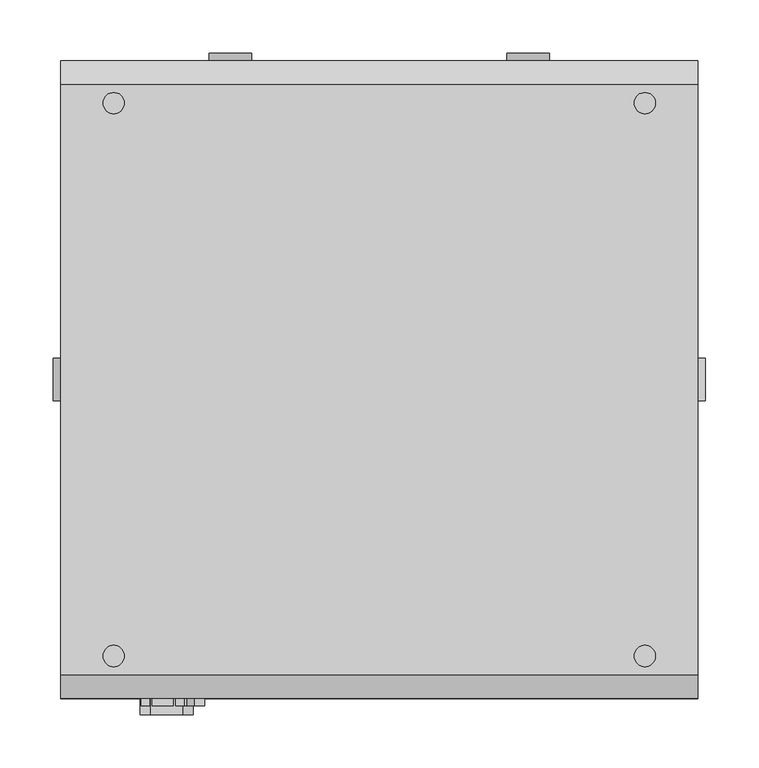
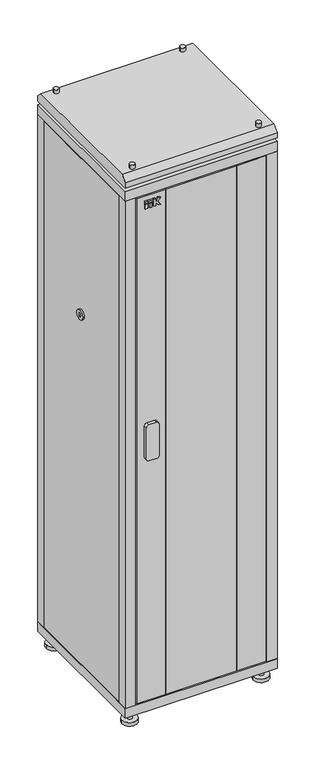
"""IFC4 building model written with IfcOpenShell, lengths in millimetres: proxy geometry, Шкафы ITK серия N_05 : LN05-47U66-G."""

import ifcopenshell
import ifcopenshell.guid

model = None  # the IFC model being written
_history = None  # IfcOwnerHistory: only IFC2X3 demands one
_inside = {}  # id of a spatial element -> (the spatial element, [elements in it])
_under = {}  # id of a project, library or spatial element -> (it, [spatial elements below it])
_declared = {}  # id of a project -> (the project, [libraries it declares])
_typed = {}  # id of a type object -> (the type object, [elements of that type])
_made_of = {}  # id of a material, layer set ... -> (it, [elements and type objects made of it])


def new_model(schema):
    """Start an empty IFC model of exactly this schema.

    Asked for "IFC4X3", IfcOpenShell would pick the latest addendum, in which some entities
    have other attributes; the version numbers below select the first issue.
    IFC2X3 requires an IfcOwnerHistory on every rooted entity: one is made here for all.
    """
    global model, _history
    if schema == "IFC4X3":
        model = ifcopenshell.file(schema_version=(4, 3, 0, 0))
    else:
        model = ifcopenshell.file(schema=schema)
    _inside.clear()
    _under.clear()
    _declared.clear()
    _typed.clear()
    _made_of.clear()
    _history = None
    if model.schema == "IFC2X3":
        org = make("IfcOrganization", Name="unknown")
        user = make(
            "IfcPersonAndOrganization",
            ThePerson=make("IfcPerson", FamilyName="unknown"),
            TheOrganization=org,
        )
        app = make(
            "IfcApplication",
            ApplicationDeveloper=org,
            Version="unknown",
            ApplicationFullName="unknown",
            ApplicationIdentifier="unknown",
        )
        _history = make(
            "IfcOwnerHistory",
            OwningUser=user,
            OwningApplication=app,
            ChangeAction="ADDED",
            CreationDate=0,
        )
    return model


def make(cls, **values):
    """One entity of the class cls with the attributes given. An attribute that is None is left unset."""
    return model.create_entity(
        cls, **{name: value for name, value in values.items() if value is not None}
    )


def rooted(cls, **values):
    """An entity with a GlobalId (a new one), such as an element, a storey or a relation."""
    return make(cls, GlobalId=ifcopenshell.guid.new(), OwnerHistory=_history, **values)


def si_unit(unit_type, name, prefix=None):
    """IfcSIUnit, for example si_unit("LENGTHUNIT", "METRE", prefix="MILLI")."""
    return make("IfcSIUnit", UnitType=unit_type, Prefix=prefix, Name=name)


def assignment(units):
    """IfcUnitAssignment: the units of a project."""
    return None if units is None else make("IfcUnitAssignment", Units=units)


def point(xyz):
    """IfcCartesianPoint."""
    return None if xyz is None else make("IfcCartesianPoint", Coordinates=xyz)


def direction(xyz):
    """IfcDirection."""
    return None if xyz is None else make("IfcDirection", DirectionRatios=xyz)


def frame(location, z_axis=None, x_axis=None):
    """IfcAxis2Placement3D, a coordinate frame: its origin and axes. An axis left out is left unset."""
    return make(
        "IfcAxis2Placement3D",
        Location=point(location),
        Axis=direction(z_axis),
        RefDirection=direction(x_axis),
    )


def frame_2d(location, x_axis=None):
    """IfcAxis2Placement2D, a coordinate frame in the plane: its origin and x axis."""
    return make(
        "IfcAxis2Placement2D", Location=point(location), RefDirection=direction(x_axis)
    )


def origin():
    """The frame at (0, 0, 0) with its axes left unset."""
    return frame((0.0, 0.0, 0.0))


def origin_with_axes():
    """The frame at (0, 0, 0) with the z axis (0, 0, 1) and the x axis (1, 0, 0) written out."""
    return frame((0.0, 0.0, 0.0), z_axis=(0.0, 0.0, 1.0), x_axis=(1.0, 0.0, 0.0))


def place(relative_to, where):
    """IfcLocalPlacement: puts the frame where relative to a parent placement (None: the world)."""
    return make(
        "IfcLocalPlacement", PlacementRelTo=relative_to, RelativePlacement=where
    )


def context(
    kind, dimensions, precision=None, world=None, true_north=None, identifier=None
):
    """IfcGeometricRepresentationContext, for example the 3D "Model" context."""
    return make(
        "IfcGeometricRepresentationContext",
        ContextIdentifier=identifier,
        ContextType=kind,
        CoordinateSpaceDimension=dimensions,
        Precision=precision,
        WorldCoordinateSystem=world,
        TrueNorth=true_north,
    )


def project(units=None, contexts=None):
    """IfcProject with its units and contexts."""
    return rooted(
        "IfcProject",
        Name="project",
        RepresentationContexts=contexts,
        UnitsInContext=assignment(units),
    )


def spatial(cls, under=None, at=None, **own):
    """A site, building, storey or space (cls), placed at a placement, below another one or the project."""
    s = rooted(cls, ObjectPlacement=at, **own)
    if under is not None:
        _under.setdefault(under.id(), (under, []))[1].append(s)
    return s


def polyline(points):
    """IfcPolyline through the points."""
    return make("IfcPolyline", Points=[point(p) for p in points])


def circle_curve(where, radius):
    """IfcCircle in the frame where."""
    return make("IfcCircle", Position=where, Radius=radius)


def trimmed(basis, trim1, trim2, sense, master):
    """IfcTrimmedCurve: the piece of a basis curve between two trims."""
    return make(
        "IfcTrimmedCurve",
        BasisCurve=basis,
        Trim1=trim1,
        Trim2=trim2,
        SenseAgreement=sense,
        MasterRepresentation=master,
    )


def segment(curve, same_sense, transition):
    """IfcCompositeCurveSegment."""
    return make(
        "IfcCompositeCurveSegment",
        Transition=transition,
        SameSense=same_sense,
        ParentCurve=curve,
    )


def composite_curve(segments, self_intersect=None):
    """IfcCompositeCurve: segments joined end to end."""
    return make("IfcCompositeCurve", Segments=segments, SelfIntersect=self_intersect)


def outline(outer, holes=None, kind="AREA"):
    """IfcArbitraryClosedProfileDef: a profile drawn as a closed curve; with holes, ...WithVoids."""
    if holes is None:
        return make("IfcArbitraryClosedProfileDef", ProfileType=kind, OuterCurve=outer)
    return make(
        "IfcArbitraryProfileDefWithVoids",
        ProfileType=kind,
        OuterCurve=outer,
        InnerCurves=holes,
    )


def extrude(swept, where, along, depth):
    """IfcExtrudedAreaSolid: the profile swept, set in the frame where, extruded along a direction by depth."""
    return make(
        "IfcExtrudedAreaSolid",
        SweptArea=swept,
        Position=where,
        ExtrudedDirection=direction(along),
        Depth=depth,
    )


def faces_of(points, faces, orient=None, outer=None):
    """IfcFace entities. A face is a list of loops; a loop is a list of indices into points, from 0.

    orient and outer hold one flag for each loop. By default every Orientation is true, the
    first loop of a face is its IfcFaceOuterBound and the others are IfcFaceBound.
    """
    made = []
    for i, loops in enumerate(faces):
        bounds = []
        for j, loop in enumerate(loops):
            is_outer = j == 0 if outer is None else outer[i][j]
            bounds.append(
                make(
                    "IfcFaceOuterBound" if is_outer else "IfcFaceBound",
                    Bound=make("IfcPolyLoop", Polygon=[points[k] for k in loop]),
                    Orientation=True if orient is None else orient[i][j],
                )
            )
        made.append(make("IfcFace", Bounds=bounds))
    return made


def faceted_brep(points, faces, orient=None, outer=None, voids=None):
    """IfcFacetedBrep: a solid bounded by flat faces; with voids (closed shells), ...WithVoids."""
    shared = [point(p) for p in points]
    hull = make("IfcClosedShell", CfsFaces=faces_of(shared, faces, orient, outer))
    if voids is None:
        return make("IfcFacetedBrep", Outer=hull)
    return make(
        "IfcFacetedBrepWithVoids",
        Outer=hull,
        Voids=[
            make(cls, CfsFaces=faces_of(shared, fs, o, b)) for cls, fs, o, b in voids
        ],
    )


def shape(context_of_items, identifier, shape_type, items):
    """IfcShapeRepresentation: the items that make up one representation, for example the "Body"."""
    return make(
        "IfcShapeRepresentation",
        ContextOfItems=context_of_items,
        RepresentationIdentifier=identifier,
        RepresentationType=shape_type,
        Items=items,
    )


def source(mapping_origin, context_of_items, identifier, shape_type, items):
    """IfcRepresentationMap: a shape defined once, which mapped items show again and again."""
    return make(
        "IfcRepresentationMap",
        MappingOrigin=mapping_origin,
        MappedRepresentation=shape(context_of_items, identifier, shape_type, items),
    )


def transform(
    local_origin,
    x_axis=None,
    y_axis=None,
    z_axis=None,
    scale=None,
    scale2=None,
    scale3=None,
    uniform=True,
):
    """IfcCartesianTransformationOperator3D, or its non-uniform kind. x_axis, y_axis, z_axis: its Axis1, 2, 3."""
    if uniform:
        return make(
            "IfcCartesianTransformationOperator3D",
            Axis1=direction(x_axis),
            Axis2=direction(y_axis),
            LocalOrigin=point(local_origin),
            Scale=scale,
            Axis3=direction(z_axis),
        )
    return make(
        "IfcCartesianTransformationOperator3DnonUniform",
        Axis1=direction(x_axis),
        Axis2=direction(y_axis),
        LocalOrigin=point(local_origin),
        Scale=scale,
        Axis3=direction(z_axis),
        Scale2=scale2,
        Scale3=scale3,
    )


def mapped(mapping_source, mapping_target):
    """IfcMappedItem: shows the shape of a source again, moved by a transform."""
    return make(
        "IfcMappedItem", MappingSource=mapping_source, MappingTarget=mapping_target
    )


def made_of(thing, what):
    """Note that an element or type object is made of a material, layer set ...; save() writes the relation."""
    if what is not None:
        _made_of.setdefault(what.id(), (what, []))[1].append(thing)
    return thing


def element(
    cls,
    number,
    at=None,
    inside=None,
    cuts=None,
    type_object=None,
    material=None,
    context=None,
    identifier="Body",
    shape_type=None,
    held_by="IfcProductDefinitionShape",
    body=None,
    shapes=None,
    **own,
):
    """One element of the class cls, such as IfcWall. Its Tag is "e" and its number.

    at: its placement. inside: the storey or other place that contains it. cuts: it is an
    opening in that element (IfcRelVoidsElement). A single representation is given by context,
    identifier, shape_type and body (its items); several are given by shapes. held_by: the class
    of the entity that holds the representations. save() writes the other relations.
    """
    e = rooted(cls, Tag="e%d" % number, ObjectPlacement=at, **own)
    if body is not None:
        shapes = [shape(context, identifier, shape_type, body)]
    if shapes is not None:
        e.Representation = make(held_by, Representations=shapes)
    if inside is not None:
        _inside.setdefault(inside.id(), (inside, []))[1].append(e)
    if cuts is not None:
        rooted(
            "IfcRelVoidsElement", RelatingBuildingElement=cuts, RelatedOpeningElement=e
        )
    if type_object is not None:
        _typed.setdefault(type_object.id(), (type_object, []))[1].append(e)
    return made_of(e, material)


def aggregate(whole, parts):
    """IfcRelAggregates: a whole, such as a stair, and the parts it consists of."""
    return rooted("IfcRelAggregates", RelatingObject=whole, RelatedObjects=parts)


def save(model, path):
    """Write the relations noted so far, then the file.

    IfcRelAggregates (storeys below a building ...), IfcRelContainedInSpatialStructure (elements
    in a storey), IfcRelDefinesByType, IfcRelAssociatesMaterial and IfcRelDeclares: one each for
    every whole, place, type object, material and project.
    """
    for whole, parts in _under.values():
        aggregate(whole, parts)
    for where, things in _inside.values():
        rooted(
            "IfcRelContainedInSpatialStructure",
            RelatedElements=things,
            RelatingStructure=where,
        )
    for kind, things in _typed.values():
        rooted("IfcRelDefinesByType", RelatedObjects=things, RelatingType=kind)
    for what, things in _made_of.values():
        rooted("IfcRelAssociatesMaterial", RelatedObjects=things, RelatingMaterial=what)
    for by, libraries in _declared.values():
        rooted("IfcRelDeclares", RelatingContext=by, RelatedDefinitions=libraries)
    model.write(path)


def plane_surface(at):
    """IfcPlane: the flat surface through the origin of the frame at, square to its z axis."""
    return make("IfcPlane", Position=at)


def cylinder_surface(at, radius):
    """IfcCylindricalSurface: all points at the distance radius from the z axis of the frame at."""
    return make("IfcCylindricalSurface", Position=at, Radius=radius)


def advanced_brep(points, edges, surfaces, faces):
    """IfcAdvancedBrep: a solid bounded by faces that lie on surfaces and meet in shared edges.

    An edge is (start, end): straight between two places in points (the first is 0);
    or (start, end, curve); or (start, end, curve, False) where it runs against its curve.
    A face is (place in surfaces, loops), or (place, loops, False) where it looks against
    its surface's normal. A loop lists edges by number (the first is 1), with a minus sign
    where the edge is run from its end to its start. The first loop is the outer one.
    """
    corners = [point(p) for p in points]
    vertices = [make("IfcVertexPoint", VertexGeometry=c) for c in corners]
    made = []
    for start, end, *more in edges:
        made.append(
            make(
                "IfcEdgeCurve",
                EdgeStart=vertices[start],
                EdgeEnd=vertices[end],
                EdgeGeometry=more[0] if more else make("IfcPolyline", Points=[corners[start], corners[end]]),
                SameSense=more[1] if len(more) > 1 else True,
            )
        )
    hull = []
    for where, loops, *sense in faces:
        bounds = []
        for j, loop in enumerate(loops):
            ring = [make("IfcOrientedEdge", EdgeElement=made[abs(k) - 1], Orientation=k > 0) for k in loop]
            bounds.append(
                make(
                    "IfcFaceOuterBound" if j == 0 else "IfcFaceBound",
                    Bound=make("IfcEdgeLoop", EdgeList=ring),
                    Orientation=True,
                )
            )
        hull.append(make("IfcAdvancedFace", Bounds=bounds, FaceSurface=surfaces[where], SameSense=sense[0] if sense else True))
    return make("IfcAdvancedBrep", Outer=make("IfcClosedShell", CfsFaces=hull))


def electrical_fixtures_600f5bc7(model_context):
    return source(origin(), model_context, "Body", "SolidModel", [
        extrude(outline(polyline([(-215.9746193, -307.0), (-224.197592, -307.0), (-224.197592, -300.0), (-215.9746193, -300.0), (-215.9746193, -307.0)])), frame((0.0, 0.0, 2157.0), z_axis=(0.0, 0.0, 1.0), x_axis=(1.0, 0.0, 0.0)), (0.0, 0.0, 1.0), 18.8087618),
        extrude(outline(polyline([(-199.9605777, -307.0), (-207.7053315, -307.0), (-207.7053315, -300.0), (-199.9605777, -300.0), (-199.9605777, -307.0)])), frame((0.0, 0.0, 2157.0), z_axis=(0.0, 0.0, 1.0), x_axis=(1.0, 0.0, 0.0)), (0.0, 0.0, 1.0), 18.8087618),
        extrude(outline(polyline([(-215.9746193, -307.0), (-224.197592, -307.0), (-224.197592, -300.0), (-215.9746193, -300.0), (-215.9746193, -307.0)])), frame((0.0, 0.0, 2178.4305892), z_axis=(0.0, 0.0, 1.0), x_axis=(1.0, 0.0, 0.0)), (0.0, 0.0, 1.0), 7.9794747),
        extrude(outline(polyline([(2157.0, -191.5184175), (2157.0, -183.7669278), (2168.0271455, -183.7669278), (2168.0271455, -180.8031229), (2157.0, -173.6420108), (2157.0, -164.197592), (2171.7278745, -174.8980192), (2186.410064, -164.197592), (2186.410064, -173.6420108), (2175.3829184, -180.8031229), (2175.3829184, -183.7669278), (2186.410064, -183.7669278), (2186.410064, -191.5184175), (2157.0, -191.5184175)])), frame((0.0, -307.0, 0.0), z_axis=(0.0, 1.0, 0.0), x_axis=(0.0, 0.0, 1.0)), (0.0, 0.0, 1.0), 7.0),
        extrude(outline(polyline([(-194.0851324, -307.0), (-213.5807768, -307.0), (-213.5807768, -300.0), (-194.0851324, -300.0), (-194.0851324, -307.0)])), frame((0.0, 0.0, 2178.4305892), z_axis=(0.0, 0.0, 1.0), x_axis=(1.0, 0.0, 0.0)), (0.0, 0.0, 1.0), 7.9794747),
        extrude(outline(composite_curve([segment(polyline([(1256.0, -185.0), (1256.0, -215.0)]), True, "CONTINUOUS"), segment(trimmed(circle_curve(frame_2d((1246.0, -215.0)), 10.0), [point((1256.0, -215.0))], [point((1246.0, -225.0))], False, "CARTESIAN"), True, "CONTINUOUS"), segment(polyline([(1246.0, -225.0), (1116.0, -225.0)]), True, "CONTINUOUS"), segment(trimmed(circle_curve(frame_2d((1116.0, -215.0)), 10.0), [point((1116.0, -225.0))], [point((1106.0, -215.0))], False, "CARTESIAN"), True, "CONTINUOUS"), segment(polyline([(1106.0, -215.0), (1106.0, -185.0)]), True, "CONTINUOUS"), segment(trimmed(circle_curve(frame_2d((1116.0, -185.0)), 10.0), [point((1106.0, -185.0))], [point((1116.0, -175.0))], False, "CARTESIAN"), True, "CONTINUOUS"), segment(polyline([(1116.0, -175.0), (1246.0, -175.0)]), True, "CONTINUOUS"), segment(trimmed(circle_curve(frame_2d((1246.0, -185.0)), 10.0), [point((1246.0, -175.0))], [point((1256.0, -185.0))], False, "CARTESIAN"), True, "CONTINUOUS")], self_intersect=False)), frame((0.0, -315.0, 0.0), z_axis=(0.0, 1.0, 0.0), x_axis=(0.0, 0.0, 1.0)), (0.0, 0.0, 1.0), 15.0),
        extrude(outline(polyline([(140.0, -280.0), (140.0, -300.0), (-140.0, -300.0), (-140.0, -280.0), (140.0, -280.0)])), frame((0.0, 0.0, 95.0), z_axis=(0.0, 0.0, 1.0), x_axis=(1.0, 0.0, 0.0)), (0.0, 0.0, 1.0), 2112.0),
        extrude(outline(polyline([(255.0, -280.0), (255.0, -300.0), (140.0, -300.0), (140.0, -280.0), (235.0, -280.0), (235.0, -265.0), (245.0, -265.0), (245.0, -280.0), (255.0, -280.0)])), frame((0.0, 0.0, 95.0), z_axis=(0.0, 0.0, 1.0), x_axis=(1.0, 0.0, 0.0)), (0.0, 0.0, 1.0), 2112.0),
        extrude(outline(polyline([(-140.0, -300.0), (-255.0, -300.0), (-255.0, -280.0), (-245.0, -280.0), (-245.0, -265.0), (-235.0, -265.0), (-235.0, -280.0), (-140.0, -280.0), (-140.0, -300.0)])), frame((0.0, 0.0, 95.0), z_axis=(0.0, 0.0, 1.0), x_axis=(1.0, 0.0, 0.0)), (0.0, 0.0, 1.0), 2112.0),
        extrude(outline(composite_curve([segment(trimmed(circle_curve(frame_2d((-260.0, 260.0)), 10.0), [point((-250.0, 260.0))], [point((-270.0, 260.0))], False, "CARTESIAN"), True, "CONTINUOUS"), segment(trimmed(circle_curve(frame_2d((-260.0, 260.0)), 10.0), [point((-270.0, 260.0))], [point((-250.0, 260.0))], False, "CARTESIAN"), True, "CONTINUOUS")], self_intersect=False)), frame((0.0, 0.0, 15.0), z_axis=(0.0, 0.0, 1.0), x_axis=(1.0, 0.0, 0.0)), (0.0, 0.0, 1.0), 35.0),
        extrude(outline(composite_curve([segment(trimmed(circle_curve(frame_2d((260.0, 260.0)), 10.0), [point((270.0, 260.0))], [point((250.0, 260.0))], False, "CARTESIAN"), True, "CONTINUOUS"), segment(trimmed(circle_curve(frame_2d((260.0, 260.0)), 10.0), [point((250.0, 260.0))], [point((270.0, 260.0))], False, "CARTESIAN"), True, "CONTINUOUS")], self_intersect=False)), frame((0.0, 0.0, 15.0), z_axis=(0.0, 0.0, 1.0), x_axis=(1.0, 0.0, 0.0)), (0.0, 0.0, 1.0), 35.0),
        extrude(outline(composite_curve([segment(trimmed(circle_curve(frame_2d((-260.0, -260.0)), 10.0), [point((-250.0, -260.0))], [point((-270.0, -260.0))], False, "CARTESIAN"), True, "CONTINUOUS"), segment(trimmed(circle_curve(frame_2d((-260.0, -260.0)), 10.0), [point((-270.0, -260.0))], [point((-250.0, -260.0))], False, "CARTESIAN"), True, "CONTINUOUS")], self_intersect=False)), frame((0.0, 0.0, 15.0), z_axis=(0.0, 0.0, 1.0), x_axis=(1.0, 0.0, 0.0)), (0.0, 0.0, 1.0), 35.0),
        extrude(outline(composite_curve([segment(trimmed(circle_curve(frame_2d((260.0, -260.0)), 10.0), [point((270.0, -260.0))], [point((250.0, -260.0))], False, "CARTESIAN"), True, "CONTINUOUS"), segment(trimmed(circle_curve(frame_2d((260.0, -260.0)), 10.0), [point((250.0, -260.0))], [point((270.0, -260.0))], False, "CARTESIAN"), True, "CONTINUOUS")], self_intersect=False)), frame((0.0, 0.0, 15.0), z_axis=(0.0, 0.0, 1.0), x_axis=(1.0, 0.0, 0.0)), (0.0, 0.0, 1.0), 35.0),
        extrude(outline(composite_curve([segment(trimmed(circle_curve(frame_2d((-260.0, 260.0)), 30.0), [point((-230.0, 260.0))], [point((-290.0, 260.0))], False, "CARTESIAN"), True, "CONTINUOUS"), segment(trimmed(circle_curve(frame_2d((-260.0, 260.0)), 30.0), [point((-290.0, 260.0))], [point((-230.0, 260.0))], False, "CARTESIAN"), True, "CONTINUOUS")], self_intersect=False)), origin_with_axes(), (0.0, 0.0, 1.0), 15.0),
        extrude(outline(composite_curve([segment(trimmed(circle_curve(frame_2d((260.0, 260.0)), 30.0), [point((290.0, 260.0))], [point((230.0, 260.0))], False, "CARTESIAN"), True, "CONTINUOUS"), segment(trimmed(circle_curve(frame_2d((260.0, 260.0)), 30.0), [point((230.0, 260.0))], [point((290.0, 260.0))], False, "CARTESIAN"), True, "CONTINUOUS")], self_intersect=False)), origin_with_axes(), (0.0, 0.0, 1.0), 15.0),
        extrude(outline(composite_curve([segment(trimmed(circle_curve(frame_2d((-260.0, -260.0)), 30.0), [point((-230.0, -260.0))], [point((-290.0, -260.0))], False, "CARTESIAN"), True, "CONTINUOUS"), segment(trimmed(circle_curve(frame_2d((-260.0, -260.0)), 30.0), [point((-290.0, -260.0))], [point((-230.0, -260.0))], False, "CARTESIAN"), True, "CONTINUOUS")], self_intersect=False)), origin_with_axes(), (0.0, 0.0, 1.0), 15.0),
        extrude(outline(composite_curve([segment(trimmed(circle_curve(frame_2d((260.0, -260.0)), 30.0), [point((290.0, -260.0))], [point((230.0, -260.0))], False, "CARTESIAN"), True, "CONTINUOUS"), segment(trimmed(circle_curve(frame_2d((260.0, -260.0)), 30.0), [point((230.0, -260.0))], [point((290.0, -260.0))], False, "CARTESIAN"), True, "CONTINUOUS")], self_intersect=False)), origin_with_axes(), (0.0, 0.0, 1.0), 15.0),
        advanced_brep(
        [(260.0, 260.0, 2327.0), (240.0, 260.0, 2327.0), (260.0, -260.0, 2327.0), (240.0, -260.0, 2327.0), (-240.0, 260.0, 2327.0), (-260.0, 260.0, 2327.0), (-240.0, -260.0, 2327.0), (-260.0, -260.0, 2327.0), (260.0, 260.0, 2252.0), (240.0, 260.0, 2252.0), (260.0, -260.0, 2252.0), (240.0, -260.0, 2252.0), (-240.0, 260.0, 2252.0), (-260.0, 260.0, 2252.0), (-240.0, -260.0, 2252.0), (-260.0, -260.0, 2252.0), (260.0, 260.0, 2312.0), (240.0, 260.0, 2312.0), (240.0, 260.0, 2267.0), (260.0, 260.0, 2267.0), (260.0, -260.0, 2312.0), (240.0, -260.0, 2312.0), (240.0, -260.0, 2267.0), (260.0, -260.0, 2267.0), (-240.0, 260.0, 2312.0), (-260.0, 260.0, 2312.0), (-260.0, 260.0, 2267.0), (-240.0, 260.0, 2267.0), (-240.0, -260.0, 2312.0), (-260.0, -260.0, 2312.0), (-260.0, -260.0, 2267.0), (-240.0, -260.0, 2267.0), (300.0, 277.5, 2312.0), (300.0, -277.5, 2312.0), (300.0, -300.0, 2289.5), (300.0, -300.0, 2267.0), (300.0, 300.0, 2267.0), (300.0, 300.0, 2289.5), (-300.0, 277.5, 2312.0), (-300.0, 300.0, 2289.5), (-300.0, 300.0, 2267.0), (-300.0, -300.0, 2267.0), (-300.0, -300.0, 2289.5), (-300.0, -277.5, 2312.0)],
        [
            (0, 1, circle_curve(frame((250.0, 260.0, 2327.0), z_axis=(0.0, 0.0, 1.0), x_axis=(-1.0, 0.0, 0.0)), 10.0)),
            (1, 0, circle_curve(frame((250.0, 260.0, 2327.0), z_axis=(0.0, 0.0, 1.0), x_axis=(-1.0, 0.0, 0.0)), 10.0)),
            (2, 3, circle_curve(frame((250.0, -260.0, 2327.0), z_axis=(0.0, 0.0, 1.0), x_axis=(-1.0, 0.0, 0.0)), 10.0)),
            (3, 2, circle_curve(frame((250.0, -260.0, 2327.0), z_axis=(0.0, 0.0, 1.0), x_axis=(-1.0, 0.0, 0.0)), 10.0)),
            (4, 5, circle_curve(frame((-250.0, 260.0, 2327.0), z_axis=(0.0, 0.0, 1.0), x_axis=(-1.0, 0.0, 0.0)), 10.0)),
            (5, 4, circle_curve(frame((-250.0, 260.0, 2327.0), z_axis=(0.0, 0.0, 1.0), x_axis=(-1.0, 0.0, 0.0)), 10.0)),
            (6, 7, circle_curve(frame((-250.0, -260.0, 2327.0), z_axis=(0.0, 0.0, 1.0), x_axis=(-1.0, 0.0, 0.0)), 10.0)),
            (7, 6, circle_curve(frame((-250.0, -260.0, 2327.0), z_axis=(0.0, 0.0, 1.0), x_axis=(-1.0, 0.0, 0.0)), 10.0)),
            (8, 9, circle_curve(frame((250.0, 260.0, 2252.0), z_axis=(0.0, 0.0, -1.0), x_axis=(-1.0, 0.0, 0.0)), 10.0)),
            (9, 8, circle_curve(frame((250.0, 260.0, 2252.0), z_axis=(0.0, 0.0, -1.0), x_axis=(-1.0, 0.0, 0.0)), 10.0)),
            (10, 11, circle_curve(frame((250.0, -260.0, 2252.0), z_axis=(0.0, 0.0, -1.0), x_axis=(-1.0, 0.0, 0.0)), 10.0)),
            (11, 10, circle_curve(frame((250.0, -260.0, 2252.0), z_axis=(0.0, 0.0, -1.0), x_axis=(-1.0, 0.0, 0.0)), 10.0)),
            (12, 13, circle_curve(frame((-250.0, 260.0, 2252.0), z_axis=(0.0, 0.0, -1.0), x_axis=(-1.0, 0.0, 0.0)), 10.0)),
            (13, 12, circle_curve(frame((-250.0, 260.0, 2252.0), z_axis=(0.0, 0.0, -1.0), x_axis=(-1.0, 0.0, 0.0)), 10.0)),
            (14, 15, circle_curve(frame((-250.0, -260.0, 2252.0), z_axis=(0.0, 0.0, -1.0), x_axis=(-1.0, 0.0, 0.0)), 10.0)),
            (15, 14, circle_curve(frame((-250.0, -260.0, 2252.0), z_axis=(0.0, 0.0, -1.0), x_axis=(-1.0, 0.0, 0.0)), 10.0)),
            (0, 16),
            (16, 17, circle_curve(frame((250.0, 260.0, 2312.0), z_axis=(0.0, 0.0, 1.0), x_axis=(-1.0, 0.0, 0.0)), 10.0)),
            (17, 1),
            (9, 18),
            (18, 19, circle_curve(frame((250.0, 260.0, 2267.0), z_axis=(0.0, 0.0, -1.0), x_axis=(-1.0, 0.0, 0.0)), 10.0)),
            (19, 8),
            (17, 16, circle_curve(frame((250.0, 260.0, 2312.0), z_axis=(0.0, 0.0, 1.0), x_axis=(-1.0, 0.0, 0.0)), 10.0)),
            (19, 18, circle_curve(frame((250.0, 260.0, 2267.0), z_axis=(0.0, 0.0, -1.0), x_axis=(-1.0, 0.0, 0.0)), 10.0)),
            (2, 20),
            (20, 21, circle_curve(frame((250.0, -260.0, 2312.0), z_axis=(0.0, 0.0, 1.0), x_axis=(-1.0, 0.0, 0.0)), 10.0)),
            (21, 3),
            (11, 22),
            (22, 23, circle_curve(frame((250.0, -260.0, 2267.0), z_axis=(0.0, 0.0, -1.0), x_axis=(-1.0, 0.0, 0.0)), 10.0)),
            (23, 10),
            (21, 20, circle_curve(frame((250.0, -260.0, 2312.0), z_axis=(0.0, 0.0, 1.0), x_axis=(-1.0, 0.0, 0.0)), 10.0)),
            (23, 22, circle_curve(frame((250.0, -260.0, 2267.0), z_axis=(0.0, 0.0, -1.0), x_axis=(-1.0, 0.0, 0.0)), 10.0)),
            (4, 24),
            (24, 25, circle_curve(frame((-250.0, 260.0, 2312.0), z_axis=(0.0, 0.0, 1.0), x_axis=(-1.0, 0.0, 0.0)), 10.0)),
            (25, 5),
            (13, 26),
            (26, 27, circle_curve(frame((-250.0, 260.0, 2267.0), z_axis=(0.0, 0.0, -1.0), x_axis=(-1.0, 0.0, 0.0)), 10.0)),
            (27, 12),
            (25, 24, circle_curve(frame((-250.0, 260.0, 2312.0), z_axis=(0.0, 0.0, 1.0), x_axis=(-1.0, 0.0, 0.0)), 10.0)),
            (27, 26, circle_curve(frame((-250.0, 260.0, 2267.0), z_axis=(0.0, 0.0, -1.0), x_axis=(-1.0, 0.0, 0.0)), 10.0)),
            (6, 28),
            (28, 29, circle_curve(frame((-250.0, -260.0, 2312.0), z_axis=(0.0, 0.0, 1.0), x_axis=(-1.0, 0.0, 0.0)), 10.0)),
            (29, 7),
            (15, 30),
            (30, 31, circle_curve(frame((-250.0, -260.0, 2267.0), z_axis=(0.0, 0.0, -1.0), x_axis=(-1.0, 0.0, 0.0)), 10.0)),
            (31, 14),
            (29, 28, circle_curve(frame((-250.0, -260.0, 2312.0), z_axis=(0.0, 0.0, 1.0), x_axis=(-1.0, 0.0, 0.0)), 10.0)),
            (31, 30, circle_curve(frame((-250.0, -260.0, 2267.0), z_axis=(0.0, 0.0, -1.0), x_axis=(-1.0, 0.0, 0.0)), 10.0)),
            (32, 33),
            (33, 34),
            (34, 35),
            (35, 36),
            (36, 37),
            (37, 32),
            (38, 39),
            (39, 40),
            (40, 41),
            (41, 42),
            (42, 43),
            (43, 38),
            (32, 38),
            (43, 33),
            (42, 34),
            (41, 35),
            (40, 36),
            (39, 37),
        ],
        [
            plane_surface(frame((240.0, 260.0, 2327.0), z_axis=(0.0, 0.0, 1.0), x_axis=(0.0, -1.0, 0.0))),
            plane_surface(frame((240.0, 260.0, 2252.0), z_axis=(0.0, 0.0, -1.0), x_axis=(0.0, 1.0, 0.0))),
            cylinder_surface(frame((250.0, 260.0, 2252.0), z_axis=(0.0, 0.0, 1.0), x_axis=(-1.0, 0.0, 0.0)), 10.0),
            cylinder_surface(frame((250.0, -260.0, 1710.0), z_axis=(0.0, 0.0, 1.0), x_axis=(-1.0, 0.0, 0.0)), 10.0),
            cylinder_surface(frame((-250.0, 260.0, 1710.0), z_axis=(0.0, 0.0, 1.0), x_axis=(-1.0, 0.0, 0.0)), 10.0),
            cylinder_surface(frame((-250.0, -260.0, 1710.0), z_axis=(0.0, 0.0, 1.0), x_axis=(-1.0, 0.0, 0.0)), 10.0),
            plane_surface(frame((300.0, -277.5, 2312.0), z_axis=(1.0, 0.0, 0.0), x_axis=(0.0, -1.0, 0.0))),
            plane_surface(frame((-300.0, -277.5, 2312.0), z_axis=(-1.0, 0.0, 0.0), x_axis=(0.0, 1.0, 0.0))),
            plane_surface(frame((300.0, 277.5, 2312.0), z_axis=(0.0, 0.0, 1.0), x_axis=(-1.0, 0.0, 0.0))),
            plane_surface(frame((300.0, -277.5, 2312.0), z_axis=(0.0, -0.7071067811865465, 0.7071067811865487), x_axis=(-1.0, 0.0, 0.0))),
            plane_surface(frame((300.0, -300.0, 2289.5), z_axis=(0.0, -1.0, 0.0), x_axis=(-1.0, 0.0, 0.0))),
            plane_surface(frame((300.0, -300.0, 2267.0), z_axis=(0.0, 0.0, -1.0), x_axis=(-1.0, 0.0, 0.0))),
            plane_surface(frame((300.0, 300.0, 2267.0), z_axis=(0.0, 1.0, 0.0), x_axis=(-1.0, 0.0, 0.0))),
            plane_surface(frame((300.0, 300.0, 2289.5), z_axis=(0.0, 0.7071067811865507, 0.7071067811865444), x_axis=(-1.0, 0.0, 0.0))),
        ],
        [
            (0, [[1, 2]]),
            (0, [[3, 4]]),
            (0, [[5, 6]]),
            (0, [[7, 8]]),
            (1, [[9, 10]]),
            (1, [[11, 12]]),
            (1, [[13, 14]]),
            (1, [[15, 16]]),
            (2, [[-1, 17, 18, 19]]),
            (2, [[-10, 20, 21, 22]]),
            (2, [[-2, -19, 23, -17]]),
            (2, [[-9, -22, 24, -20]]),
            (3, [[-3, 25, 26, 27]]),
            (3, [[-12, 28, 29, 30]]),
            (3, [[-4, -27, 31, -25]]),
            (3, [[-11, -30, 32, -28]]),
            (4, [[-5, 33, 34, 35]]),
            (4, [[-14, 36, 37, 38]]),
            (4, [[-6, -35, 39, -33]]),
            (4, [[-13, -38, 40, -36]]),
            (5, [[-7, 41, 42, 43]]),
            (5, [[-16, 44, 45, 46]]),
            (5, [[-8, -43, 47, -41]]),
            (5, [[-15, -46, 48, -44]]),
            (6, [[49, 50, 51, 52, 53, 54]]),
            (7, [[55, 56, 57, 58, 59, 60]]),
            (8, [[-49, 61, -60, 62], [-18, -23], [-26, -31], [-34, -39], [-42, -47]]),
            (9, [[-50, -62, -59, 63]]),
            (10, [[-51, -63, -58, 64]]),
            (11, [[-52, -64, -57, 65], [-21, -24], [-29, -32], [-37, -40], [-45, -48]]),
            (12, [[-53, -65, -56, 66]]),
            (13, [[-54, -66, -55, -61]]),
        ],
    ),
        extrude(outline(polyline([(260.0, 260.0), (260.0, 245.0), (290.0, 245.0), (290.0, -245.0), (260.0, -245.0), (260.0, -260.0), (245.0, -260.0), (245.0, -280.0), (-245.0, -280.0), (-245.0, -260.0), (-260.0, -260.0), (-260.0, -245.0), (-290.0, -245.0), (-290.0, 245.0), (-260.0, 245.0), (-260.0, 260.0), (-245.0, 260.0), (-245.0, 290.0), (245.0, 290.0), (245.0, 260.0), (260.0, 260.0)])), frame((0.0, 0.0, 90.0), z_axis=(0.0, 0.0, 1.0), x_axis=(1.0, 0.0, 0.0)), (0.0, 0.0, 1.0), 5.0),
        extrude(outline(polyline([(260.0, 260.0), (260.0, 245.0), (290.0, 245.0), (290.0, -245.0), (260.0, -245.0), (260.0, -260.0), (245.0, -260.0), (245.0, -280.0), (-245.0, -280.0), (-245.0, -260.0), (-260.0, -260.0), (-260.0, -245.0), (-290.0, -245.0), (-290.0, 245.0), (-260.0, 245.0), (-260.0, 260.0), (-245.0, 260.0), (-245.0, 290.0), (245.0, 290.0), (245.0, 260.0), (260.0, 260.0)])), frame((0.0, 0.0, 2207.0), z_axis=(0.0, 0.0, 1.0), x_axis=(1.0, 0.0, 0.0)), (0.0, 0.0, 1.0), 5.0),
        extrude(outline(polyline([(300.0, -300.0), (-300.0, -300.0), (-300.0, 300.0), (300.0, 300.0), (300.0, -300.0)])), frame((0.0, 0.0, 2212.0), z_axis=(0.0, 0.0, 1.0), x_axis=(1.0, 0.0, 0.0)), (0.0, 0.0, 1.0), 40.0),
        extrude(outline(polyline([(300.0, -300.0), (-300.0, -300.0), (-300.0, 300.0), (300.0, 300.0), (300.0, -300.0)])), frame((0.0, 0.0, 50.0), z_axis=(0.0, 0.0, 1.0), x_axis=(1.0, 0.0, 0.0)), (0.0, 0.0, 1.0), 40.0),
        extrude(outline(composite_curve([segment(trimmed(circle_curve(frame_2d((1151.0, 140.0)), 20.0), [point((1151.0, 160.0))], [point((1151.0, 120.0))], False, "CARTESIAN"), True, "CONTINUOUS"), segment(trimmed(circle_curve(frame_2d((1151.0, 140.0)), 20.0), [point((1151.0, 120.0))], [point((1151.0, 160.0))], False, "CARTESIAN"), True, "CONTINUOUS")], self_intersect=False), holes=[polyline([(1142.7814397, 137.0), (1159.2185603, 137.0), (1159.2185603, 143.0), (1142.7814397, 143.0), (1142.7814397, 137.0)])]), frame((0.0, 300.0, 0.0), z_axis=(0.0, 1.0, 0.0), x_axis=(0.0, 0.0, 1.0)), (0.0, 0.0, 1.0), 7.0),
        extrude(outline(composite_curve([segment(trimmed(circle_curve(frame_2d((1151.0, -140.0)), 20.0), [point((1151.0, -120.0))], [point((1151.0, -160.0))], False, "CARTESIAN"), True, "CONTINUOUS"), segment(trimmed(circle_curve(frame_2d((1151.0, -140.0)), 20.0), [point((1151.0, -160.0))], [point((1151.0, -120.0))], False, "CARTESIAN"), True, "CONTINUOUS")], self_intersect=False), holes=[polyline([(1142.7814397, -143.0), (1159.2185603, -143.0), (1159.2185603, -137.0), (1142.7814397, -137.0), (1142.7814397, -143.0)])]), frame((0.0, 300.0, 0.0), z_axis=(0.0, 1.0, 0.0), x_axis=(0.0, 0.0, 1.0)), (0.0, 0.0, 1.0), 7.0),
        faceted_brep([(255.0, 300.0, 2207.0), (-255.0, 300.0, 2207.0), (-255.0, 270.0, 2207.0), (-245.0, 270.0, 2207.0), (-245.0, 290.0, 2207.0), (245.0, 290.0, 2207.0), (245.0, 270.0, 2207.0), (255.0, 270.0, 2207.0), (255.0, 300.0, 95.0), (255.0, 270.0, 95.0), (245.0, 270.0, 95.0), (245.0, 290.0, 95.0), (-245.0, 290.0, 95.0), (-245.0, 270.0, 95.0), (-255.0, 270.0, 95.0), (-255.0, 300.0, 95.0), (255.0, 300.0, 2034.5265979), (-255.0, 300.0, 2034.5265979), (175.0, 300.0, 2082.0), (175.0, 300.0, 2162.0), (-175.0, 300.0, 2162.0), (-175.0, 300.0, 2082.0), (-255.0, 300.0, 267.4734021), (255.0, 300.0, 267.4734021), (175.0, 300.0, 220.0), (-175.0, 300.0, 220.0), (-175.0, 300.0, 140.0), (175.0, 300.0, 140.0), (255.0, 300.0, 2029.4734021), (255.0, 300.0, 272.5265979), (-255.0, 300.0, 272.5265979), (-255.0, 300.0, 2029.4734021), (-170.0, 300.0, 215.0), (170.0, 300.0, 215.0), (170.0, 300.0, 145.0), (-170.0, 300.0, 145.0), (-170.0, 300.0, 2087.0), (-170.0, 300.0, 2157.0), (170.0, 300.0, 2157.0), (170.0, 300.0, 2087.0), (-255.0, 293.0, 2034.5265979), (-255.0, 293.0, 2029.4734021), (-255.0, 293.0, 272.5265979), (-255.0, 293.0, 267.4734021), (255.0, 293.0, 267.4734021), (255.0, 293.0, 272.5265979), (255.0, 293.0, 2029.4734021), (255.0, 293.0, 2034.5265979), (175.0, 293.0, 220.0), (175.0, 293.0, 140.0), (-175.0, 293.0, 140.0), (-175.0, 293.0, 220.0), (-170.0, 293.0, 215.0), (-170.0, 293.0, 145.0), (170.0, 293.0, 145.0), (170.0, 293.0, 215.0), (175.0, 293.0, 2082.0), (-175.0, 293.0, 2082.0), (-175.0, 293.0, 2162.0), (175.0, 293.0, 2162.0), (-170.0, 293.0, 2087.0), (170.0, 293.0, 2087.0), (170.0, 293.0, 2157.0), (-170.0, 293.0, 2157.0)], [[[0, 1, 2, 3, 4, 5, 6, 7]], [[8, 9, 10, 11, 12, 13, 14, 15]], [[1, 0, 16, 17], [18, 19, 20, 21]], [[8, 15, 22, 23], [24, 25, 26, 27]], [[28, 29, 30, 31]], [[32, 33, 34, 35]], [[36, 37, 38, 39]], [[2, 1, 17, 40, 41, 31, 30, 42, 43, 22, 15, 14]], [[3, 2, 14, 13]], [[4, 3, 13, 12]], [[5, 4, 12, 11]], [[6, 5, 11, 10]], [[7, 6, 10, 9]], [[0, 7, 9, 8, 23, 44, 45, 29, 28, 46, 47, 16]], [[44, 43, 42, 45]], [[48, 49, 50, 51], [52, 53, 54, 55]], [[46, 41, 40, 47]], [[56, 57, 58, 59], [60, 61, 62, 63]], [[45, 42, 30, 29]], [[43, 44, 23, 22]], [[48, 51, 25, 24]], [[51, 50, 26, 25]], [[50, 49, 27, 26]], [[49, 48, 24, 27]], [[52, 55, 33, 32]], [[55, 54, 34, 33]], [[54, 53, 35, 34]], [[53, 52, 32, 35]], [[47, 40, 17, 16]], [[41, 46, 28, 31]], [[56, 59, 19, 18]], [[59, 58, 20, 19]], [[58, 57, 21, 20]], [[57, 56, 18, 21]], [[60, 63, 37, 36]], [[63, 62, 38, 37]], [[62, 61, 39, 38]], [[61, 60, 36, 39]]]),
        extrude(outline(composite_curve([segment(trimmed(circle_curve(frame_2d((0.0, 1558.0)), 20.0), [point((-20.0, 1558.0))], [point((20.0, 1558.0))], False, "CARTESIAN"), True, "CONTINUOUS"), segment(trimmed(circle_curve(frame_2d((0.0, 1558.0)), 20.0), [point((20.0, 1558.0))], [point((-20.0, 1558.0))], False, "CARTESIAN"), True, "CONTINUOUS")], self_intersect=False), holes=[polyline([(3.0, 1549.7814397), (3.0, 1566.2185603), (-3.0, 1566.2185603), (-3.0, 1549.7814397), (3.0, 1549.7814397)])]), frame((300.0, 0.0, 0.0), z_axis=(1.0, 0.0, 0.0), x_axis=(0.0, 1.0, 0.0)), (0.0, 0.0, 1.0), 7.0),
        extrude(outline(composite_curve([segment(trimmed(circle_curve(frame_2d((0.0, 1558.0)), 20.0), [point((20.0, 1558.0))], [point((-20.0, 1558.0))], False, "CARTESIAN"), True, "CONTINUOUS"), segment(trimmed(circle_curve(frame_2d((0.0, 1558.0)), 20.0), [point((-20.0, 1558.0))], [point((20.0, 1558.0))], False, "CARTESIAN"), True, "CONTINUOUS")], self_intersect=False), holes=[polyline([(-3.0, 1549.7814397), (3.0, 1549.7814397), (3.0, 1566.2185603), (-3.0, 1566.2185603), (-3.0, 1549.7814397)])]), frame((-307.0, 0.0, 0.0), z_axis=(1.0, 0.0, 0.0), x_axis=(0.0, 1.0, 0.0)), (0.0, 0.0, 1.0), 7.0),
        extrude(outline(polyline([(-270.0, 255.0), (-270.0, 245.0), (-289.9803177, 245.0), (-289.9803177, -245.0), (-269.9803177, -245.0), (-269.9803177, -255.0), (-300.0, -255.0), (-300.0, 255.0), (-270.0, 255.0)])), frame((0.0, 0.0, 95.0), z_axis=(0.0, 0.0, 1.0), x_axis=(1.0, 0.0, 0.0)), (0.0, 0.0, 1.0), 2112.0),
        extrude(outline(polyline([(269.9803177, 255.0), (300.0, 255.0), (300.0, -255.0), (269.9803177, -255.0), (269.9803177, -245.0), (289.9803177, -245.0), (289.9803177, 245.0), (269.9803177, 245.0), (269.9803177, 255.0)])), frame((0.0, 0.0, 95.0), z_axis=(0.0, 0.0, 1.0), x_axis=(1.0, 0.0, 0.0)), (0.0, 0.0, 1.0), 2112.0),
        extrude(outline(polyline([(-270.0, -260.0), (-270.0, -245.0), (-260.0, -245.0), (-260.0, -260.0), (-245.0, -260.0), (-245.0, -280.0), (-260.0, -280.0), (-260.0, -300.0), (-300.0, -300.0), (-300.0, -260.0), (-270.0, -260.0)]), holes=[polyline([(-267.0, -263.0), (-297.0, -263.0), (-297.0, -297.0), (-263.0, -297.0), (-263.0, -277.0), (-248.0, -277.0), (-248.0, -263.0), (-263.0, -263.0), (-263.0, -248.0), (-267.0, -248.0), (-267.0, -263.0)])]), frame((0.0, 0.0, 90.0), z_axis=(0.0, 0.0, 1.0), x_axis=(1.0, 0.0, 0.0)), (0.0, 0.0, 1.0), 2122.0),
        extrude(outline(polyline([(270.0, -260.0), (300.0, -260.0), (300.0, -300.0), (260.0, -300.0), (260.0, -280.0), (245.0, -280.0), (245.0, -260.0), (260.0, -260.0), (260.0, -245.0), (270.0, -245.0), (270.0, -260.0)]), holes=[polyline([(297.0, -297.0), (297.0, -263.0), (267.0, -263.0), (267.0, -248.0), (263.0, -248.0), (263.0, -263.0), (248.0, -263.0), (248.0, -277.0), (263.0, -277.0), (263.0, -297.0), (297.0, -297.0)])]), frame((0.0, 0.0, 90.0), z_axis=(0.0, 0.0, 1.0), x_axis=(1.0, 0.0, 0.0)), (0.0, 0.0, 1.0), 2122.0),
        extrude(outline(polyline([(270.0, 260.0), (270.0, 245.0), (260.0, 245.0), (260.0, 260.0), (245.0, 260.0), (245.0, 270.0), (260.0, 270.0), (260.0, 300.0), (300.0, 300.0), (300.0, 260.0), (270.0, 260.0)]), holes=[polyline([(297.0, 263.0), (297.0, 297.0), (263.0, 297.0), (263.0, 267.0), (248.0, 267.0), (248.0, 263.0), (263.0, 263.0), (263.0, 248.0), (267.0, 248.0), (267.0, 263.0), (297.0, 263.0)])]), frame((0.0, 0.0, 90.0), z_axis=(0.0, 0.0, 1.0), x_axis=(1.0, 0.0, 0.0)), (0.0, 0.0, 1.0), 2122.0),
        extrude(outline(polyline([(-270.0, 260.0), (-300.0, 260.0), (-300.0, 300.0), (-260.0, 300.0), (-260.0, 270.0), (-245.0, 270.0), (-245.0, 260.0), (-260.0, 260.0), (-260.0, 245.0), (-270.0, 245.0), (-270.0, 260.0)]), holes=[polyline([(-297.0, 297.0), (-297.0, 263.0), (-267.0, 263.0), (-267.0, 248.0), (-263.0, 248.0), (-263.0, 263.0), (-248.0, 263.0), (-248.0, 267.0), (-263.0, 267.0), (-263.0, 297.0), (-297.0, 297.0)])]), frame((0.0, 0.0, 90.0), z_axis=(0.0, 0.0, 1.0), x_axis=(1.0, 0.0, 0.0)), (0.0, 0.0, 1.0), 2122.0),
    ])


if __name__ == "__main__":
    model = new_model("IFC4")
    model_context = context("Model", 3, world=origin())
    ifc_project = project(units=[si_unit("LENGTHUNIT", "METRE", prefix="MILLI")], contexts=[model_context])
    site = spatial("IfcSite", under=ifc_project)
    building = spatial("IfcBuilding", under=site)
    placement = place(None, origin())
    electrical_fixtures_shape = electrical_fixtures_600f5bc7(model_context)
    element("IfcBuildingElementProxy", 1, Name="Шкафы ITK серия N_05 : LN05-47U66-G", ObjectType="Шкафы ITK серия N_05 : LN05-47U66-G", at=placement, inside=building, context=model_context, shape_type="MappedRepresentation", body=[
        mapped(electrical_fixtures_shape, transform((0.0, 0.0, 0.0), x_axis=(1.0, 0.0, 0.0), y_axis=(0.0, 1.0, 0.0), z_axis=(0.0, 0.0, 1.0))),
    ])
    save(model, "model.ifc")
